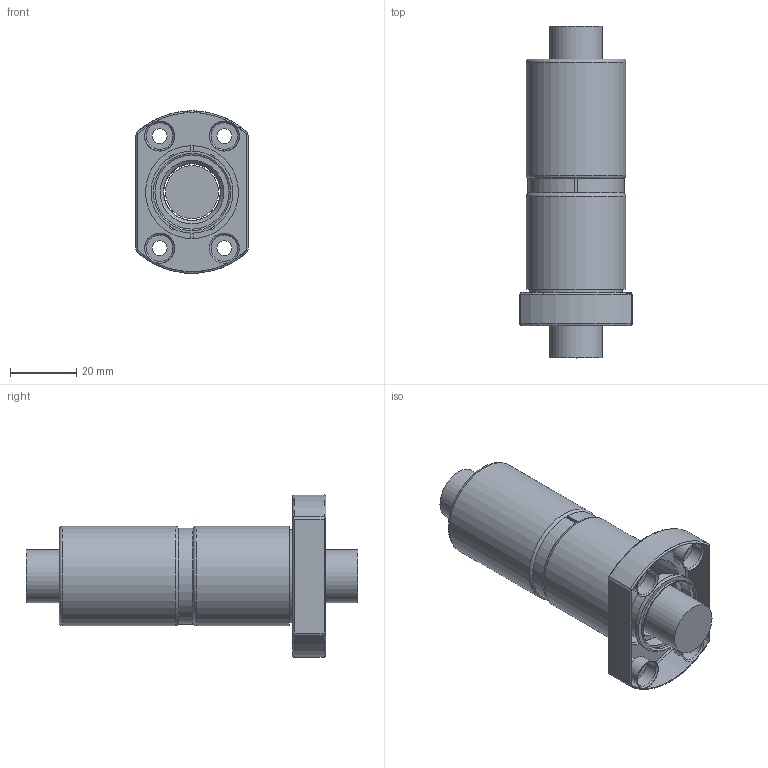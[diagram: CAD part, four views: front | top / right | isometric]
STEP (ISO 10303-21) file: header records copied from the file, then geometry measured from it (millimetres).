
FILE_DESCRIPTION(/* description */ (''),/* implementation_level */ '2;1');
FILE_NAME(/* name */ '1605.step',/* time_stamp */ '2008-12-05T09:20:16+08:00',/* author */ (''),/* organization */ (''),/* preprocessor_version */ 'ST-DEVELOPER v11',/* originating_system */ 'SIEMENS UGS NX 6.0',/* authorisation */ '');
FILE_SCHEMA (('AUTOMOTIVE_DESIGN { 1 0 10303 214 1 1 1 1 }'));
Length unit declared in the file: millimetre
Products named in the file (1): 1605
Bounding box: 34 x 100 x 48.91 mm (x, y, z)
Volume: 61580.9 mm3; surface area: 23621.1 mm2
Topology: 5 solids, 5 shells, 99 faces, 213 edges, 138 vertices
Faces by surface type: plane 42, cylinder 36, cone 12, torus 9
Full cylindrical faces by diameter (mm): 2.5 x8, 4.5 x4, 8 x4, 15.95 x1, 17.2 x2, 20 x2, 22.3 x4, 24.7 x2, 28 x1, 30 x2
Entity records: 2638 total; most frequent: CARTESIAN_POINT 606, DIRECTION 434, ORIENTED_EDGE 306, AXIS2_PLACEMENT_3D 197, EDGE_LOOP 180, EDGE_CURVE 153, FACE_BOUND 150, VERTEX_POINT 125
